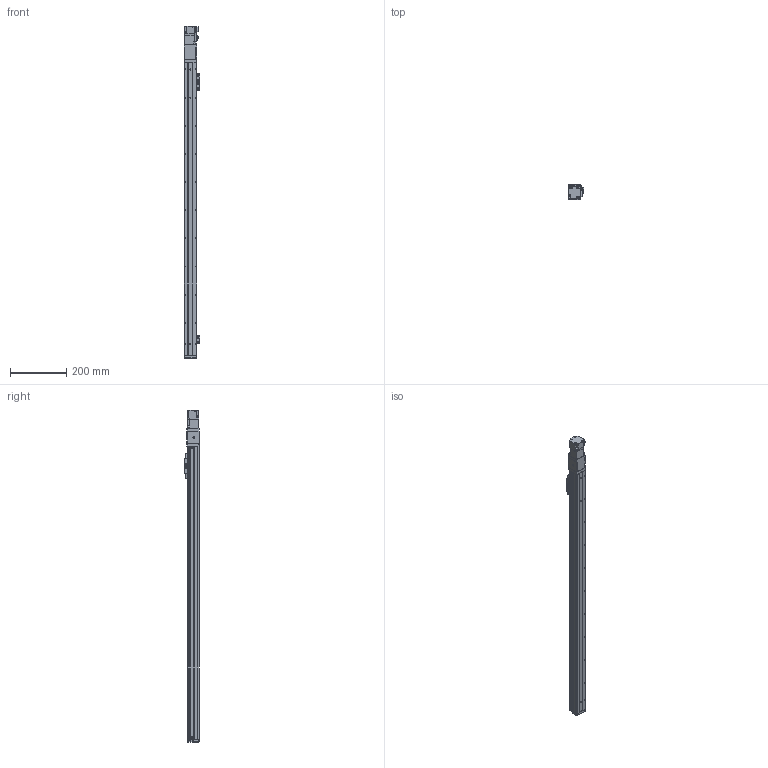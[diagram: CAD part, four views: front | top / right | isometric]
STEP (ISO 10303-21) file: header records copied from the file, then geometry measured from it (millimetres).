
FILE_DESCRIPTION (( 'STEP AP203' ), '1' );
FILE_NAME ('GTH4-900-BC-M05-C4.step', '2023-09-14T05:43:29', ( '' ), ( '' ), 'SwSTEP 2.0', 'SolidWorks 2020', '' );
FILE_SCHEMA (( 'CONFIG_CONTROL_DESIGN' ));
Length unit declared in the file: millimetre
Products named in the file (19): GBT 70.3-M3℅6; BTH40-013; HG-KR13; BTH50-023; GBT70.1-2000 M3×16; BTH50-024; BTH50-028; GBT96.1-2002 3×0.8; BTH40-005-1; GBT 70.1-M3℅6; BTH40-001-50_BTH40-001-900; BTH40-006; BTH40-017_笢俶; BTH40-004; GTH4-900-BC-M05-C4; BTH40-022; BTH-M3X5X6; BTH40-003; GBT 70.1-M2.5×6
Assembly tree (49 placements, depth 2):
  GTH4-900-BC-M05-C4
    BTH40-001-50_BTH40-001-900
    BTH40-003
    BTH40-006
    BTH-M3X5X6  x10
    GBT70.1-2000 M3×16  x4
    BTH50-028  x2
    BTH50-023  x3
    BTH50-024  x3
    GBT 70.1-M3℅6  x6
    GBT96.1-2002 3×0.8  x6
    BTH40-022
    GBT 70.1-M2.5×6  x2
    BTH40-004
    BTH40-013
    HG-KR13
    GBT 70.3-M3℅6  x4
    BTH40-017_笢俶
    BTH40-005-1
Bounding box: 55.2 x 52 x 1179.4 mm (x, y, z)
Volume: 1802645.7 mm3; surface area: 306675 mm2
Topology: 51 solids, 51 shells, 1880 faces, 4422 edges, 2734 vertices
Faces by surface type: plane 1026, cylinder 481, cone 237, torus 132, sphere 4
Entity records: 34884 total; most frequent: DIRECTION 5657, CARTESIAN_POINT 5643, ORIENTED_EDGE 5306, EDGE_CURVE 2653, AXIS2_PLACEMENT_3D 1911, LINE 1835, VECTOR 1835, VERTEX_POINT 1665
